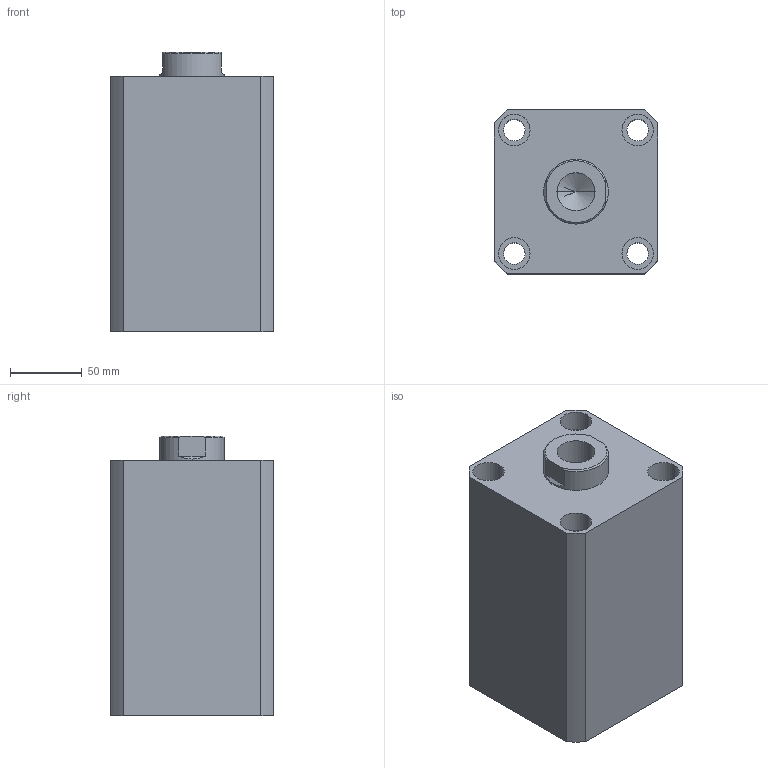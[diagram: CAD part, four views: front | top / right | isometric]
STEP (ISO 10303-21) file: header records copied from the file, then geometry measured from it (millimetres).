
FILE_DESCRIPTION (( 'STEP AP203' ), '1' );
FILE_NAME ('HTB-SDMB80-100N.STEP', '2019-10-09T06:15:06', ( '微软用户' ), ( '微软中国' ), 'SwSTEP 2.0', 'SolidWorks 2012', '' );
FILE_SCHEMA (( 'CONFIG_CONTROL_DESIGN' ));
Length unit declared in the file: millimetre
Products named in the file (3): HTB-SDMB80-100掛极; HTB-SDMB80-100N活塞杆; HTB-SDMB80-100N
Assembly tree (2 placements, depth 2):
  HTB-SDMB80-100N
    HTB-SDMB80-100掛极
    HTB-SDMB80-100N活塞杆
Bounding box: 114 x 114 x 195 mm (x, y, z)
Volume: 1794647.4 mm3; surface area: 224709.9 mm2
Topology: 2 solids, 2 shells, 137 faces, 331 edges, 217 vertices
Faces by surface type: plane 65, cylinder 46, bspline 16, torus 6, cone 4
Entity records: 5070 total; most frequent: CARTESIAN_POINT 1576, ORIENTED_EDGE 658, DIRECTION 647, EDGE_CURVE 329, AXIS2_PLACEMENT_3D 232, VERTEX_POINT 217, LINE 183, VECTOR 183
